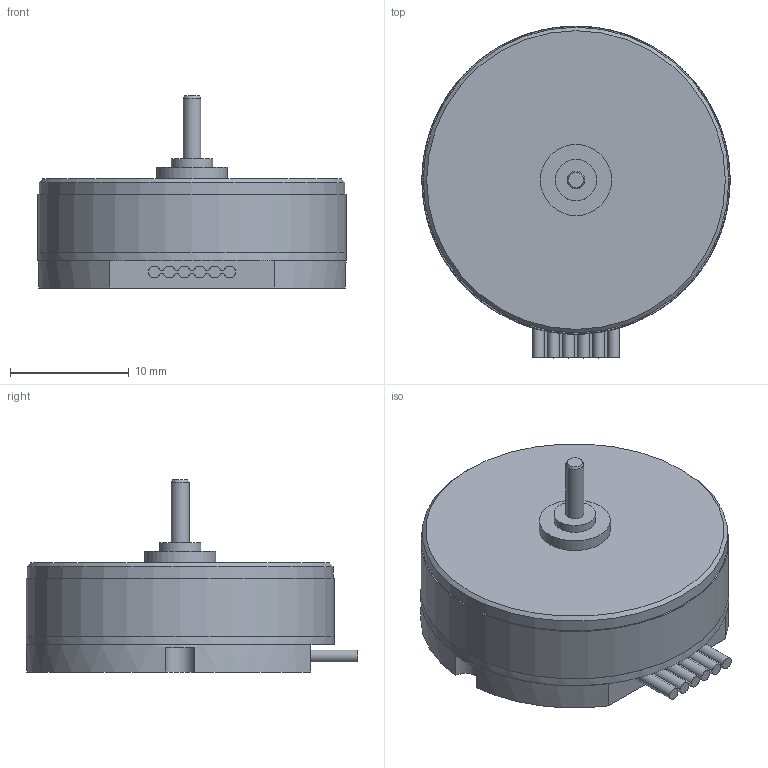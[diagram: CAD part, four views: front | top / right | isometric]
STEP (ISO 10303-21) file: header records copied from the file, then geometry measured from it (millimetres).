
FILE_DESCRIPTION(/* description */ (''),/* implementation_level */ '2;1');
FILE_NAME(/* name */ '2607T_SR_IE-16.stp',/* time_stamp */ '2017-07-31T10:46:28+02:00',/* author */ ('DR. FRITZ FAULHABER GmbH & Co. KG'),/* organization */ ('DR. FRITZ FAULHABER GmbH & Co. KG'),/* preprocessor_version */ 'ST-DEVELOPER v16',/* originating_system */ 'SIEMENS PLM Software NX 10.0',/* authorisation */ '');
FILE_SCHEMA (('AUTOMOTIVE_DESIGN { 1 0 10303 214 3 1 1 1 }'));
Length unit declared in the file: millimetre
Products named in the file (1): Alle_Motoren
Bounding box: 26 x 28 x 16.2 mm (x, y, z)
Volume: 4876.7 mm3; surface area: 1935.4 mm2
Topology: 1 solids, 1 shells, 49 faces, 116 edges, 77 vertices
Faces by surface type: plane 25, cylinder 22, cone 2
Full cylindrical faces by diameter (mm): 1.5 x1, 3.5 x1, 6 x1, 25.8 x1, 25.99 x1, 26 x2
Entity records: 1404 total; most frequent: DIRECTION 258, CARTESIAN_POINT 232, ORIENTED_EDGE 212, EDGE_CURVE 106, AXIS2_PLACEMENT_3D 102, VERTEX_POINT 76, EDGE_LOOP 66, LINE 54
